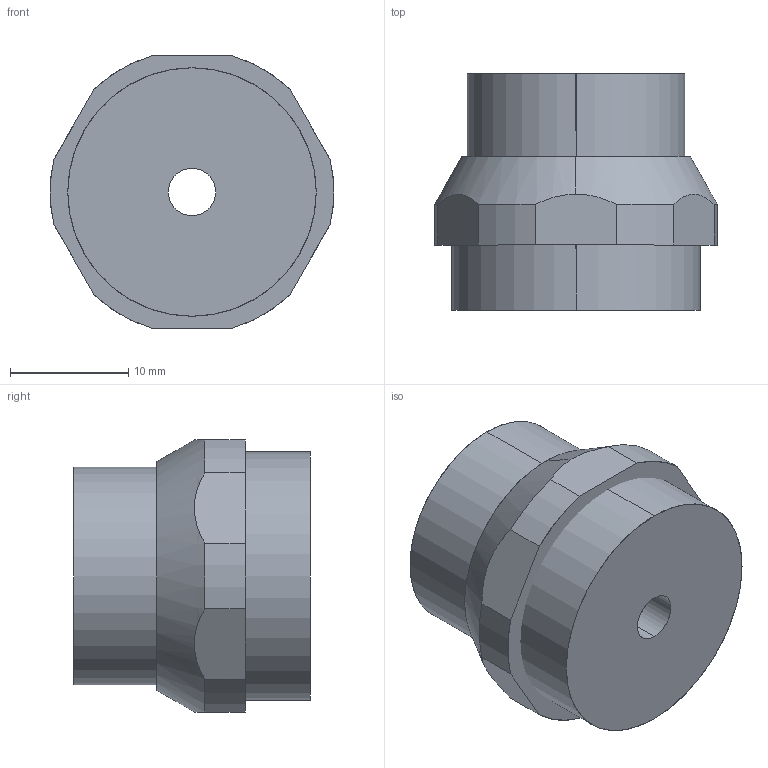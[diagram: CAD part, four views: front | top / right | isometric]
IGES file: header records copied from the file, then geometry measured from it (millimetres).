
Start section: SolidWorks IGES file using analytic representation for surfaces
Global section: file name: \\silv-file01\public$\SILVENT AB\ENGINEERING\Drawings\ÖVRIGT\IGES\SILVENT_703_L_LP_IGS.IGS; native system: SolidWorks 2016; preprocessor: SolidWorks 2016; author: a.olander; date: 191111.110643; units: millimetre
Bounding box: 24 x 20 x 23 mm (x, y, z)
Surface area: 3379.3 mm2 (no closed solid volume)
Topology: 0 solids, 0 shells, 36 faces, 604 edges, 604 vertices
Faces by surface type: revolution 22, bspline 14
